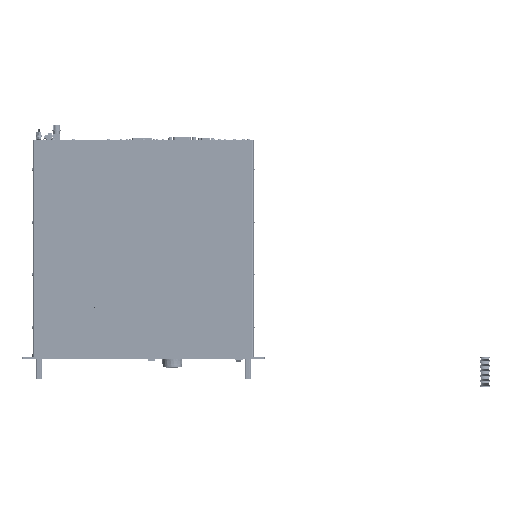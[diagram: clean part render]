
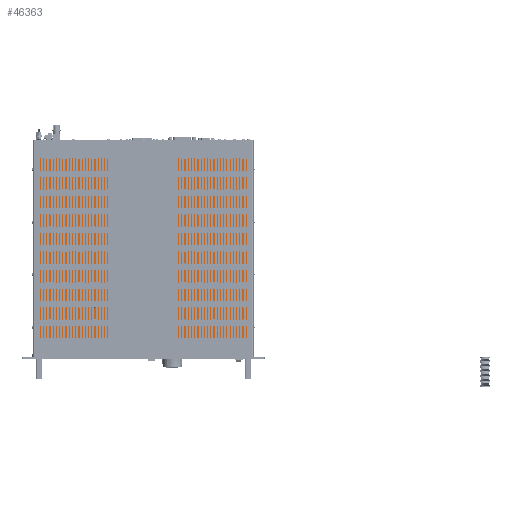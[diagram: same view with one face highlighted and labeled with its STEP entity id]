
A CAD part, top view. The second image highlights one B-rep face of the part: STEP entity #46363.
In plain terms, the highlighted planar face has unit normal (0, 0, 1).
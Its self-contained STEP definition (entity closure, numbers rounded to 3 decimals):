
#46363=ADVANCED_FACE('',(#93826,#93827),#93828,.T.);
#93826=FACE_OUTER_BOUND('',#175628,.T.);
#93827=FACE_BOUND('',#175629,.T.);
#93828=PLANE('',#175630);
#175628=EDGE_LOOP('',(#305629,#305630,#305631,#305632));
#175629=EDGE_LOOP('',(#305633,#305634));
#175630=AXIS2_PLACEMENT_3D('',#305635,#305636,#305637);
#305629=ORIENTED_EDGE('',*,*,#359595,.T.);
#305630=ORIENTED_EDGE('',*,*,#359596,.T.);
#305631=ORIENTED_EDGE('',*,*,#359597,.T.);
#305632=ORIENTED_EDGE('',*,*,#359598,.T.);
#305633=ORIENTED_EDGE('',*,*,#359599,.F.);
#305634=ORIENTED_EDGE('',*,*,#359535,.F.);
#305635=CARTESIAN_POINT('',(10.9,419.5,83.398));
#305636=DIRECTION('',(0.0,0.0,1.0));
#305637=DIRECTION('',(1.0,0.0,0.0));
#359535=EDGE_CURVE('',#434321,#434317,#434323,.F.);
#359595=EDGE_CURVE('',#434415,#434416,#434417,.T.);
#359596=EDGE_CURVE('',#434416,#434418,#434419,.F.);
#359597=EDGE_CURVE('',#434418,#434420,#434421,.T.);
#359598=EDGE_CURVE('',#434420,#434415,#434422,.F.);
#359599=EDGE_CURVE('',#434317,#434321,#434423,.F.);
#434317=VERTEX_POINT('',#540070);
#434321=VERTEX_POINT('',#540075);
#434323=CIRCLE('',#540078,1.807);
#434415=VERTEX_POINT('',#540198);
#434416=VERTEX_POINT('',#540199);
#434417=LINE('',#540200,#540201);
#434418=VERTEX_POINT('',#540202);
#434419=LINE('',#540203,#540204);
#434420=VERTEX_POINT('',#540205);
#434421=LINE('',#540206,#540207);
#434422=LINE('',#540208,#540209);
#434423=CIRCLE('',#540210,1.807);
#540070=CARTESIAN_POINT('',(364.698,55.807,83.398));
#540075=CARTESIAN_POINT('',(364.698,52.193,83.398));
#540078=AXIS2_PLACEMENT_3D('',#600465,#600466,#600467);
#540198=CARTESIAN_POINT('',(434.598,3.75,83.398));
#540199=CARTESIAN_POINT('',(434.598,426.75,83.398));
#540200=CARTESIAN_POINT('',(434.598,419.5,83.398));
#540201=VECTOR('',#600544,1.0);
#540202=CARTESIAN_POINT('',(2.,426.75,83.398));
#540203=CARTESIAN_POINT('',(10.9,426.75,83.398));
#540204=VECTOR('',#600545,1.0);
#540205=CARTESIAN_POINT('',(2.,3.75,83.398));
#540206=CARTESIAN_POINT('',(2.,419.5,83.398));
#540207=VECTOR('',#600546,1.0);
#540208=CARTESIAN_POINT('',(10.9,3.75,83.398));
#540209=VECTOR('',#600547,1.0);
#540210=AXIS2_PLACEMENT_3D('',#600548,#600549,#600550);
#600465=CARTESIAN_POINT('',(364.698,54.,83.398));
#600466=DIRECTION('',(0.0,0.0,-1.0));
#600467=DIRECTION('',(0.0,1.0,0.0));
#600544=DIRECTION('',(0.0,1.0,0.0));
#600545=DIRECTION('',(1.0,0.0,0.0));
#600546=DIRECTION('',(0.0,-1.0,0.0));
#600547=DIRECTION('',(-1.0,0.0,0.0));
#600548=CARTESIAN_POINT('',(364.698,54.,83.398));
#600549=DIRECTION('',(0.0,0.0,-1.0));
#600550=DIRECTION('',(0.0,1.0,0.0));
